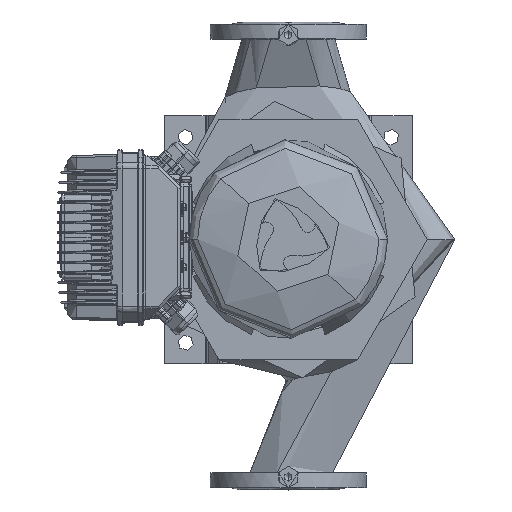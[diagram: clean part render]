
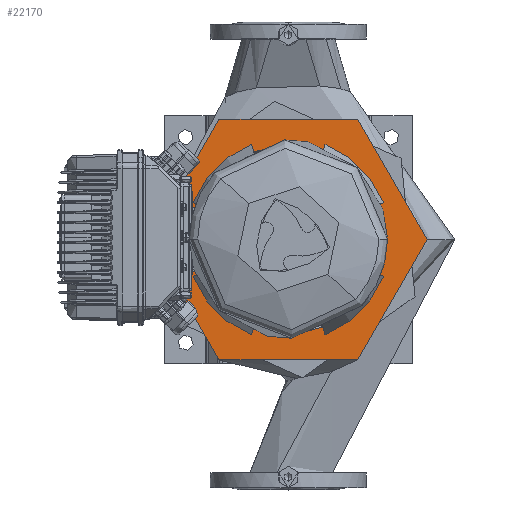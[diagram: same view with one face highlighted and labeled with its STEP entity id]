
A CAD part, top view. The second image highlights one B-rep face of the part: STEP entity #22170.
In plain terms, the highlighted planar face has unit normal (0, 0, 1) as drawn and (1, 0, 0) by its records, which use the part's own axes.
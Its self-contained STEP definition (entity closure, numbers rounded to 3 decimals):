
#22170=ADVANCED_FACE('',(#44511,#44512),#44513,.T.);
#22194=EDGE_CURVE('',#44552,#44553,#44554,.T.);
#22218=EDGE_CURVE('',#44596,#44597,#44598,.T.);
#22226=EDGE_CURVE('',#44606,#44609,#44610,.T.);
#22234=EDGE_CURVE('',#44618,#44621,#44622,.T.);
#22240=EDGE_CURVE('',#44625,#44597,#44630,.T.);
#22242=EDGE_CURVE('',#44632,#44609,#44633,.T.);
#22250=EDGE_CURVE('',#44644,#44640,#44645,.T.);
#22258=EDGE_CURVE('',#44655,#44651,#44656,.T.);
#22266=EDGE_CURVE('',#44662,#44665,#44666,.T.);
#22276=EDGE_CURVE('',#44676,#44606,#44679,.T.);
#22282=EDGE_CURVE('',#44684,#44618,#44687,.T.);
#22290=EDGE_CURVE('',#44695,#44690,#44698,.T.);
#22292=EDGE_CURVE('',#44621,#44640,#44700,.T.);
#22296=EDGE_CURVE('',#44690,#44651,#44704,.T.);
#22300=EDGE_CURVE('',#44665,#44596,#44708,.T.);
#22304=EDGE_CURVE('',#44632,#44684,#44712,.T.);
#22308=EDGE_CURVE('',#44644,#44695,#44716,.T.);
#22310=EDGE_CURVE('',#44625,#44676,#44718,.T.);
#22314=EDGE_CURVE('',#44553,#44552,#44722,.T.);
#22316=EDGE_CURVE('',#44655,#44662,#44724,.T.);
#44511=FACE_OUTER_BOUND('',#282489,.T.);
#44512=FACE_BOUND('',#282490,.T.);
#44513=PLANE('',#282491);
#44552=VERTEX_POINT('',#282532);
#44553=VERTEX_POINT('',#282533);
#44554=CIRCLE('',#282534,196.0);
#44596=VERTEX_POINT('',#282588);
#44597=VERTEX_POINT('',#282589);
#44598=CIRCLE('',#282590,132.799);
#44606=VERTEX_POINT('',#282610);
#44609=VERTEX_POINT('',#282623);
#44610=CIRCLE('',#282624,132.799);
#44618=VERTEX_POINT('',#282644);
#44621=VERTEX_POINT('',#282657);
#44622=CIRCLE('',#282658,132.799);
#44625=VERTEX_POINT('',#282662);
#44630=LINE('',#282679,#282680);
#44632=VERTEX_POINT('',#282683);
#44633=LINE('',#282684,#282685);
#44640=VERTEX_POINT('',#282705);
#44644=VERTEX_POINT('',#282719);
#44645=LINE('',#282720,#282721);
#44651=VERTEX_POINT('',#282740);
#44655=VERTEX_POINT('',#282754);
#44656=LINE('',#282755,#282756);
#44662=VERTEX_POINT('',#282775);
#44665=VERTEX_POINT('',#282788);
#44666=LINE('',#282789,#282790);
#44676=VERTEX_POINT('',#282815);
#44679=LINE('',#282828,#282829);
#44684=VERTEX_POINT('',#282837);
#44687=LINE('',#282850,#282851);
#44690=VERTEX_POINT('',#282855);
#44695=VERTEX_POINT('',#282872);
#44698=LINE('',#282885,#282886);
#44700=CIRCLE('',#282889,132.799);
#44704=CIRCLE('',#282895,132.799);
#44708=CIRCLE('',#282901,132.799);
#44712=CIRCLE('',#282907,144.0);
#44716=CIRCLE('',#282913,144.0);
#44718=CIRCLE('',#282916,144.0);
#44722=CIRCLE('',#282922,196.0);
#44724=CIRCLE('',#282925,144.0);
#282489=EDGE_LOOP('',(#337034,#337035));
#282490=EDGE_LOOP('',(#337036,#337037,#337038,#337039,#337040,#337041,#337042,#337043,#337044,#337045,#337046,#337047,#337048,#337049,#337050,#337051,#337052,#337053));
#282491=AXIS2_PLACEMENT_3D('',#337054,#337055,#337056);
#282532=CARTESIAN_POINT('',(20.0,196.0,0.0));
#282533=CARTESIAN_POINT('',(20.0,-196.0,0.));
#282534=AXIS2_PLACEMENT_3D('',#337156,#337157,#337158);
#282588=CARTESIAN_POINT('',(20.0,-132.799,0.));
#282589=CARTESIAN_POINT('',(20.0,-123.51,-48.794));
#282590=AXIS2_PLACEMENT_3D('',#337192,#337193,#337194);
#282610=CARTESIAN_POINT('',(20.0,-48.794,-123.51));
#282623=CARTESIAN_POINT('',(20.0,48.794,-123.51));
#282624=AXIS2_PLACEMENT_3D('',#337198,#337199,#337200);
#282644=CARTESIAN_POINT('',(20.0,123.51,-48.794));
#282657=CARTESIAN_POINT('',(20.0,132.799,0.));
#282658=AXIS2_PLACEMENT_3D('',#337204,#337205,#337206);
#282662=CARTESIAN_POINT('',(20.0,-134.395,-51.711));
#282679=CARTESIAN_POINT('',(20.0,-134.395,-51.711));
#282680=VECTOR('',#337208,1.0);
#282683=CARTESIAN_POINT('',(20.0,51.711,-134.395));
#282684=CARTESIAN_POINT('',(20.0,51.711,-134.395));
#282685=VECTOR('',#337209,1.0);
#282705=CARTESIAN_POINT('',(20.0,123.51,48.794));
#282719=CARTESIAN_POINT('',(20.0,134.395,51.711));
#282720=CARTESIAN_POINT('',(20.0,134.395,51.711));
#282721=VECTOR('',#337211,1.0);
#282740=CARTESIAN_POINT('',(20.0,-48.794,123.51));
#282754=CARTESIAN_POINT('',(20.0,-51.711,134.395));
#282755=CARTESIAN_POINT('',(20.0,-51.711,134.395));
#282756=VECTOR('',#337213,1.0);
#282775=CARTESIAN_POINT('',(20.0,-134.395,51.711));
#282788=CARTESIAN_POINT('',(20.0,-123.51,48.794));
#282789=CARTESIAN_POINT('',(20.0,-134.395,51.711));
#282790=VECTOR('',#337215,1.0);
#282815=CARTESIAN_POINT('',(20.0,-51.711,-134.395));
#282828=CARTESIAN_POINT('',(20.0,-51.711,-134.395));
#282829=VECTOR('',#337218,1.0);
#282837=CARTESIAN_POINT('',(20.0,134.395,-51.711));
#282850=CARTESIAN_POINT('',(20.0,134.395,-51.711));
#282851=VECTOR('',#337220,1.0);
#282855=CARTESIAN_POINT('',(20.0,48.794,123.51));
#282872=CARTESIAN_POINT('',(20.0,51.711,134.395));
#282885=CARTESIAN_POINT('',(20.0,51.711,134.395));
#282886=VECTOR('',#337222,1.0);
#282889=AXIS2_PLACEMENT_3D('',#337223,#337224,#337225);
#282895=AXIS2_PLACEMENT_3D('',#337229,#337230,#337231);
#282901=AXIS2_PLACEMENT_3D('',#337235,#337236,#337237);
#282907=AXIS2_PLACEMENT_3D('',#337241,#337242,#337243);
#282913=AXIS2_PLACEMENT_3D('',#337247,#337248,#337249);
#282916=AXIS2_PLACEMENT_3D('',#337250,#337251,#337252);
#282922=AXIS2_PLACEMENT_3D('',#337256,#337257,#337258);
#282925=AXIS2_PLACEMENT_3D('',#337259,#337260,#337261);
#337034=ORIENTED_EDGE('',*,*,#22194,.T.);
#337035=ORIENTED_EDGE('',*,*,#22314,.T.);
#337036=ORIENTED_EDGE('',*,*,#22316,.F.);
#337037=ORIENTED_EDGE('',*,*,#22258,.T.);
#337038=ORIENTED_EDGE('',*,*,#22296,.F.);
#337039=ORIENTED_EDGE('',*,*,#22290,.F.);
#337040=ORIENTED_EDGE('',*,*,#22308,.F.);
#337041=ORIENTED_EDGE('',*,*,#22250,.T.);
#337042=ORIENTED_EDGE('',*,*,#22292,.F.);
#337043=ORIENTED_EDGE('',*,*,#22234,.F.);
#337044=ORIENTED_EDGE('',*,*,#22282,.F.);
#337045=ORIENTED_EDGE('',*,*,#22304,.F.);
#337046=ORIENTED_EDGE('',*,*,#22242,.T.);
#337047=ORIENTED_EDGE('',*,*,#22226,.F.);
#337048=ORIENTED_EDGE('',*,*,#22276,.F.);
#337049=ORIENTED_EDGE('',*,*,#22310,.F.);
#337050=ORIENTED_EDGE('',*,*,#22240,.T.);
#337051=ORIENTED_EDGE('',*,*,#22218,.F.);
#337052=ORIENTED_EDGE('',*,*,#22300,.F.);
#337053=ORIENTED_EDGE('',*,*,#22266,.F.);
#337054=CARTESIAN_POINT('',(20.0,170.0,0.0));
#337055=DIRECTION('',(1.0,0.0,0.0));
#337056=DIRECTION('',(0.0,0.0,-1.0));
#337156=CARTESIAN_POINT('',(20.0,0.0,0.0));
#337157=DIRECTION('',(1.0,0.0,0.0));
#337158=DIRECTION('',(0.0,1.0,0.0));
#337192=CARTESIAN_POINT('',(20.0,0.0,0.0));
#337193=DIRECTION('',(1.0,0.0,0.0));
#337194=DIRECTION('',(0.0,1.0,0.0));
#337198=CARTESIAN_POINT('',(20.0,0.0,0.0));
#337199=DIRECTION('',(1.0,0.0,0.0));
#337200=DIRECTION('',(0.0,1.0,0.0));
#337204=CARTESIAN_POINT('',(20.0,0.0,0.0));
#337205=DIRECTION('',(1.0,0.0,0.0));
#337206=DIRECTION('',(0.0,1.0,0.0));
#337208=DIRECTION('',(0.,0.966,0.259));
#337209=DIRECTION('',(0.,-0.259,0.966));
#337211=DIRECTION('',(0.,-0.966,-0.259));
#337213=DIRECTION('',(0.,0.259,-0.966));
#337215=DIRECTION('',(0.,0.966,-0.259));
#337218=DIRECTION('',(0.,0.259,0.966));
#337220=DIRECTION('',(0.,-0.966,0.259));
#337222=DIRECTION('',(0.,-0.259,-0.966));
#337223=CARTESIAN_POINT('',(20.0,0.0,0.0));
#337224=DIRECTION('',(1.0,0.0,0.0));
#337225=DIRECTION('',(0.0,1.0,0.0));
#337229=CARTESIAN_POINT('',(20.0,0.0,0.0));
#337230=DIRECTION('',(1.0,0.0,0.0));
#337231=DIRECTION('',(0.0,1.0,0.0));
#337235=CARTESIAN_POINT('',(20.0,0.0,0.0));
#337236=DIRECTION('',(1.0,0.0,0.0));
#337237=DIRECTION('',(0.0,1.0,0.0));
#337241=CARTESIAN_POINT('',(20.0,0.0,0.0));
#337242=DIRECTION('',(1.0,0.0,0.0));
#337243=DIRECTION('',(0.0,1.0,0.0));
#337247=CARTESIAN_POINT('',(20.0,0.0,0.0));
#337248=DIRECTION('',(1.0,0.0,0.0));
#337249=DIRECTION('',(0.0,1.0,0.0));
#337250=CARTESIAN_POINT('',(20.0,0.0,0.0));
#337251=DIRECTION('',(1.0,0.0,0.0));
#337252=DIRECTION('',(0.0,1.0,0.0));
#337256=CARTESIAN_POINT('',(20.0,0.0,0.0));
#337257=DIRECTION('',(1.0,0.0,0.0));
#337258=DIRECTION('',(0.0,1.0,0.0));
#337259=CARTESIAN_POINT('',(20.0,0.0,0.0));
#337260=DIRECTION('',(1.0,0.0,0.0));
#337261=DIRECTION('',(0.0,1.0,0.0));
